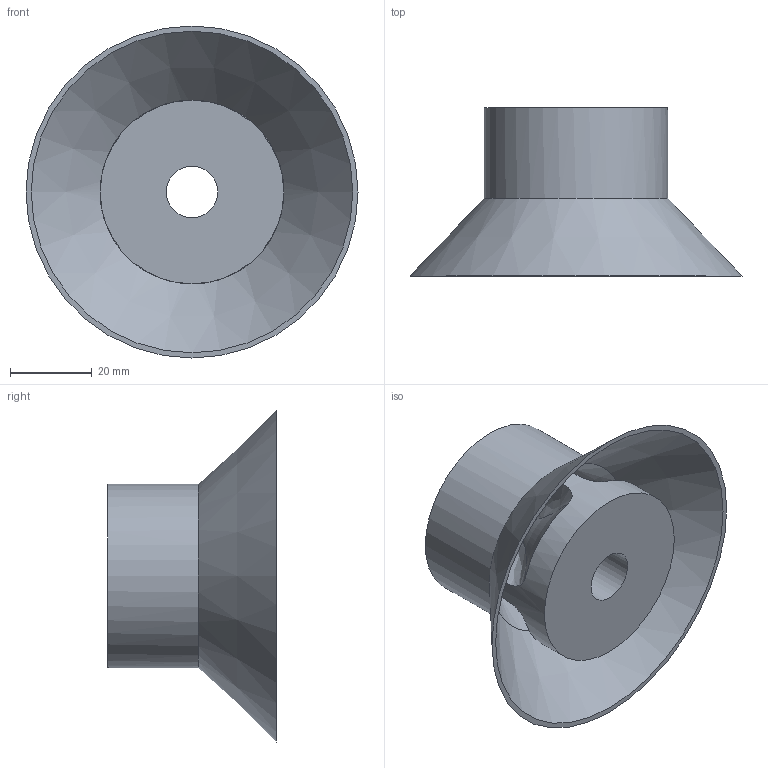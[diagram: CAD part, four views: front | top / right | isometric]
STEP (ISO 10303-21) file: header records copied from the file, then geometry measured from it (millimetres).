
FILE_DESCRIPTION(/* description */ (''),/* implementation_level */ '2;1');
FILE_NAME(/* name */ 'C:/Users/Owner/Desktop/KCAD 3Dp Fuel Filter Baffles Gen1/STEP Versions/1.77DIAx1.624 High Baffles STEP/1.77 Dia 50 CAL Baffle STEP.step',/* time_stamp */ '2019-06-01T15:58:54-04:00',/* author */ (''),/* organization */ (''),/* preprocessor_version */ 'ST-DEVELOPER v18',/* originating_system */ 'Autodesk Translation Framework v8.2.0.1029',/* authorisation */ '');
FILE_SCHEMA (('AUTOMOTIVE_DESIGN { 1 0 10303 214 3 1 1 }'));
Length unit declared in the file: inch
Products named in the file (1): 1.77 dia 1.624 high 50 cal
Bounding box: 81.28 x 41.25 x 81.28 mm (x, y, z)
Volume: 50235.7 mm3; surface area: 23920.2 mm2
Topology: 1 solids, 1 shells, 32 faces, 114 edges, 77 vertices
Faces by surface type: bspline 13, plane 11, cylinder 4, cone 2, torus 2
Full cylindrical faces by diameter (mm): 12.7 x2, 44.958 x2
Entity records: 1969 total; most frequent: CARTESIAN_POINT 1078, ORIENTED_EDGE 228, DIRECTION 120, EDGE_CURVE 114, VERTEX_POINT 77, B_SPLINE_CURVE_WITH_KNOTS 66, AXIS2_PLACEMENT_3D 53, EDGE_LOOP 35
